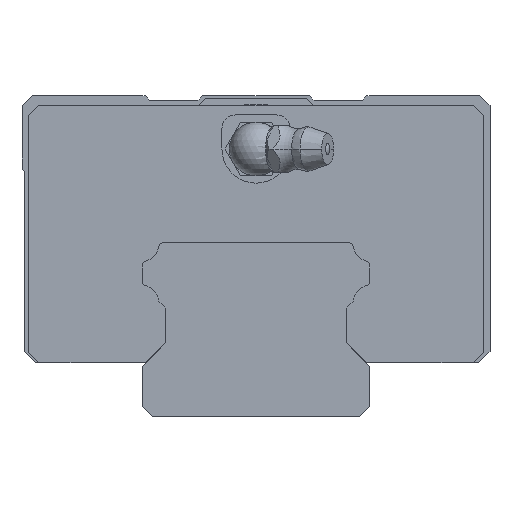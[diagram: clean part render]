
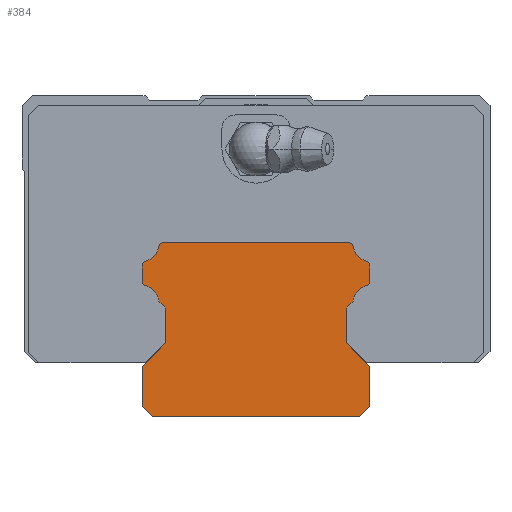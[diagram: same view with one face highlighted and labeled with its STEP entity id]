
A CAD part, front view. The second image highlights one B-rep face of the part: STEP entity #384.
In plain terms, the highlighted planar face has unit normal (0, -1, 0).
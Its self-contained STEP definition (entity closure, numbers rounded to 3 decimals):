
#384=ADVANCED_FACE('',(#855),#856,.T.);
#855=FACE_OUTER_BOUND('',#1419,.T.);
#856=PLANE('',#1420);
#1419=EDGE_LOOP('',(#3168,#3169,#3170,#3171,#3172,#3173,#3174,#3175,#3176,#3177,#3178,#3179,#3180,#3181,#3182,#3183,#3184,#3185,#3186,#3187,#3188,#3189,#3190,#3191));
#1420=AXIS2_PLACEMENT_3D('',#3192,#3193,#3194);
#3168=ORIENTED_EDGE('',*,*,#3862,.T.);
#3169=ORIENTED_EDGE('',*,*,#3909,.T.);
#3170=ORIENTED_EDGE('',*,*,#3847,.T.);
#3171=ORIENTED_EDGE('',*,*,#3901,.T.);
#3172=ORIENTED_EDGE('',*,*,#3910,.T.);
#3173=ORIENTED_EDGE('',*,*,#3911,.T.);
#3174=ORIENTED_EDGE('',*,*,#3851,.T.);
#3175=ORIENTED_EDGE('',*,*,#3866,.T.);
#3176=ORIENTED_EDGE('',*,*,#3856,.T.);
#3177=ORIENTED_EDGE('',*,*,#3912,.T.);
#3178=ORIENTED_EDGE('',*,*,#3913,.T.);
#3179=ORIENTED_EDGE('',*,*,#3914,.T.);
#3180=ORIENTED_EDGE('',*,*,#3915,.T.);
#3181=ORIENTED_EDGE('',*,*,#3903,.T.);
#3182=ORIENTED_EDGE('',*,*,#3841,.T.);
#3183=ORIENTED_EDGE('',*,*,#3916,.T.);
#3184=ORIENTED_EDGE('',*,*,#3891,.T.);
#3185=ORIENTED_EDGE('',*,*,#3898,.T.);
#3186=ORIENTED_EDGE('',*,*,#3917,.T.);
#3187=ORIENTED_EDGE('',*,*,#3868,.T.);
#3188=ORIENTED_EDGE('',*,*,#3918,.T.);
#3189=ORIENTED_EDGE('',*,*,#3919,.T.);
#3190=ORIENTED_EDGE('',*,*,#3837,.T.);
#3191=ORIENTED_EDGE('',*,*,#3920,.T.);
#3192=CARTESIAN_POINT('',(-16.2,-95.0,20.283));
#3193=DIRECTION('',(0.0,-1.0,0.0));
#3194=DIRECTION('',(0.0,0.0,-1.0));
#3837=EDGE_CURVE('',#4765,#4766,#4767,.T.);
#3841=EDGE_CURVE('',#4773,#4774,#4775,.T.);
#3847=EDGE_CURVE('',#4783,#4784,#4785,.T.);
#3851=EDGE_CURVE('',#4791,#4792,#4793,.T.);
#3856=EDGE_CURVE('',#4800,#4801,#4802,.T.);
#3862=EDGE_CURVE('',#4810,#4811,#4812,.T.);
#3866=EDGE_CURVE('',#4792,#4800,#4818,.T.);
#3868=EDGE_CURVE('',#4820,#4821,#4822,.T.);
#3891=EDGE_CURVE('',#4858,#4859,#4860,.T.);
#3898=EDGE_CURVE('',#4859,#4869,#4870,.T.);
#3901=EDGE_CURVE('',#4784,#4873,#4874,.T.);
#3903=EDGE_CURVE('',#4876,#4773,#4877,.T.);
#3909=EDGE_CURVE('',#4811,#4783,#4885,.T.);
#3910=EDGE_CURVE('',#4873,#4886,#4887,.T.);
#3911=EDGE_CURVE('',#4886,#4791,#4888,.T.);
#3912=EDGE_CURVE('',#4801,#4889,#4890,.T.);
#3913=EDGE_CURVE('',#4889,#4891,#4892,.T.);
#3914=EDGE_CURVE('',#4891,#4893,#4894,.T.);
#3915=EDGE_CURVE('',#4893,#4876,#4895,.T.);
#3916=EDGE_CURVE('',#4774,#4858,#4896,.T.);
#3917=EDGE_CURVE('',#4869,#4820,#4897,.T.);
#3918=EDGE_CURVE('',#4821,#4898,#4899,.T.);
#3919=EDGE_CURVE('',#4898,#4765,#4900,.T.);
#3920=EDGE_CURVE('',#4766,#4810,#4901,.T.);
#4765=VERTEX_POINT('',#6207);
#4766=VERTEX_POINT('',#6208);
#4767=CIRCLE('',#6209,2.6);
#4773=VERTEX_POINT('',#6217);
#4774=VERTEX_POINT('',#6218);
#4775=CIRCLE('',#6219,2.6);
#4783=VERTEX_POINT('',#6229);
#4784=VERTEX_POINT('',#6230);
#4785=CIRCLE('',#6231,2.6);
#4791=VERTEX_POINT('',#6239);
#4792=VERTEX_POINT('',#6240);
#4793=LINE('',#6241,#6242);
#4800=VERTEX_POINT('',#6252);
#4801=VERTEX_POINT('',#6253);
#4802=LINE('',#6254,#6255);
#4810=VERTEX_POINT('',#6266);
#4811=VERTEX_POINT('',#6267);
#4812=LINE('',#6268,#6269);
#4818=LINE('',#6278,#6279);
#4820=VERTEX_POINT('',#6282);
#4821=VERTEX_POINT('',#6283);
#4822=CIRCLE('',#6284,0.8);
#4858=VERTEX_POINT('',#6332);
#4859=VERTEX_POINT('',#6333);
#4860=LINE('',#6334,#6335);
#4869=VERTEX_POINT('',#6346);
#4870=CIRCLE('',#6347,0.8);
#4873=VERTEX_POINT('',#6351);
#4874=LINE('',#6352,#6353);
#4876=VERTEX_POINT('',#6356);
#4877=LINE('',#6357,#6358);
#4885=CIRCLE('',#6367,0.8);
#4886=VERTEX_POINT('',#6368);
#4887=LINE('',#6369,#6370);
#4888=LINE('',#6371,#6372);
#4889=VERTEX_POINT('',#6373);
#4890=LINE('',#6374,#6375);
#4891=VERTEX_POINT('',#6376);
#4892=LINE('',#6377,#6378);
#4893=VERTEX_POINT('',#6379);
#4894=LINE('',#6380,#6381);
#4895=LINE('',#6382,#6383);
#4896=CIRCLE('',#6384,0.8);
#4897=CIRCLE('',#6385,2.6);
#4898=VERTEX_POINT('',#6386);
#4899=LINE('',#6387,#6388);
#4900=CIRCLE('',#6389,0.8);
#4901=CIRCLE('',#6390,0.8);
#6207=CARTESIAN_POINT('',(-14.573,-95.0,25.338));
#6208=CARTESIAN_POINT('',(-16.42,-95.0,23.286));
#6209=AXIS2_PLACEMENT_3D('',#7242,#7243,#7244);
#6217=CARTESIAN_POINT('',(14.545,-95.0,17.245));
#6218=CARTESIAN_POINT('',(16.42,-95.0,19.514));
#6219=AXIS2_PLACEMENT_3D('',#7250,#7251,#7252);
#6229=CARTESIAN_POINT('',(-16.42,-95.0,19.514));
#6230=CARTESIAN_POINT('',(-14.545,-95.0,17.245));
#6231=AXIS2_PLACEMENT_3D('',#7264,#7265,#7266);
#6239=CARTESIAN_POINT('',(-17.0,-95.0,7.5));
#6240=CARTESIAN_POINT('',(-17.0,-95.0,1.5));
#6241=CARTESIAN_POINT('',(-17.0,-95.0,7.5));
#6242=VECTOR('',#7272,1000.0);
#6252=CARTESIAN_POINT('',(-15.5,-95.0,0.));
#6253=CARTESIAN_POINT('',(15.5,-95.0,0.0));
#6254=CARTESIAN_POINT('',(-15.5,-95.0,0.0));
#6255=VECTOR('',#7279,1000.0);
#6266=CARTESIAN_POINT('',(-17.0,-95.0,22.517));
#6267=CARTESIAN_POINT('',(-17.0,-95.0,20.283));
#6268=CARTESIAN_POINT('',(-17.0,-95.0,22.517));
#6269=VECTOR('',#7289,1000.0);
#6278=CARTESIAN_POINT('',(-17.0,-95.0,1.5));
#6279=VECTOR('',#7293,1000.0);
#6282=CARTESIAN_POINT('',(14.573,-95.0,25.338));
#6283=CARTESIAN_POINT('',(13.785,-95.0,26.0));
#6284=AXIS2_PLACEMENT_3D('',#7295,#7296,#7297);
#6332=CARTESIAN_POINT('',(17.0,-95.0,20.283));
#6333=CARTESIAN_POINT('',(17.0,-95.0,22.517));
#6334=CARTESIAN_POINT('',(17.0,-95.0,20.283));
#6335=VECTOR('',#7340,1000.0);
#6346=CARTESIAN_POINT('',(16.42,-95.0,23.286));
#6347=AXIS2_PLACEMENT_3D('',#7355,#7356,#7357);
#6351=CARTESIAN_POINT('',(-13.5,-95.0,16.2));
#6352=CARTESIAN_POINT('',(-14.545,-95.0,17.245));
#6353=VECTOR('',#7362,1000.0);
#6356=CARTESIAN_POINT('',(13.5,-95.0,16.2));
#6357=CARTESIAN_POINT('',(13.5,-95.0,16.2));
#6358=VECTOR('',#7364,1000.0);
#6367=AXIS2_PLACEMENT_3D('',#7378,#7379,#7380);
#6368=CARTESIAN_POINT('',(-13.5,-95.0,11.));
#6369=CARTESIAN_POINT('',(-13.5,-95.0,16.2));
#6370=VECTOR('',#7381,1000.0);
#6371=CARTESIAN_POINT('',(-13.5,-95.0,11.));
#6372=VECTOR('',#7382,1000.0);
#6373=CARTESIAN_POINT('',(17.0,-95.0,1.5));
#6374=CARTESIAN_POINT('',(15.5,-95.0,0.0));
#6375=VECTOR('',#7383,1000.0);
#6376=CARTESIAN_POINT('',(17.0,-95.0,7.5));
#6377=CARTESIAN_POINT('',(17.0,-95.0,1.5));
#6378=VECTOR('',#7384,1000.0);
#6379=CARTESIAN_POINT('',(13.5,-95.0,11.));
#6380=CARTESIAN_POINT('',(17.0,-95.0,7.5));
#6381=VECTOR('',#7385,1000.0);
#6382=CARTESIAN_POINT('',(13.5,-95.0,11.));
#6383=VECTOR('',#7386,1000.0);
#6384=AXIS2_PLACEMENT_3D('',#7387,#7388,#7389);
#6385=AXIS2_PLACEMENT_3D('',#7390,#7391,#7392);
#6386=CARTESIAN_POINT('',(-13.785,-95.0,26.0));
#6387=CARTESIAN_POINT('',(13.785,-95.0,26.0));
#6388=VECTOR('',#7393,1000.0);
#6389=AXIS2_PLACEMENT_3D('',#7394,#7395,#7396);
#6390=AXIS2_PLACEMENT_3D('',#7397,#7398,#7399);
#7242=CARTESIAN_POINT('',(-17.134,-95.0,25.786));
#7243=DIRECTION('',(0.0,1.0,0.));
#7244=DIRECTION('',(1.0,0.0,0.0));
#7250=CARTESIAN_POINT('',(17.134,-95.0,17.014));
#7251=DIRECTION('',(0.0,1.0,0.));
#7252=DIRECTION('',(1.0,0.0,0.0));
#7264=CARTESIAN_POINT('',(-17.134,-95.0,17.014));
#7265=DIRECTION('',(0.0,1.0,0.));
#7266=DIRECTION('',(1.0,0.0,0.0));
#7272=DIRECTION('',(0.0,0.0,-1.0));
#7279=DIRECTION('',(1.0,0.0,0.0));
#7289=DIRECTION('',(0.0,0.0,-1.0));
#7293=DIRECTION('',(0.707,0.0,-0.707));
#7295=CARTESIAN_POINT('',(13.785,-95.0,25.2));
#7296=DIRECTION('',(0.0,-1.0,0.0));
#7297=DIRECTION('',(1.0,0.0,0.0));
#7340=DIRECTION('',(0.0,0.0,1.0));
#7355=CARTESIAN_POINT('',(16.2,-95.0,22.517));
#7356=DIRECTION('',(0.0,-1.0,0.0));
#7357=DIRECTION('',(1.0,0.0,0.0));
#7362=DIRECTION('',(0.707,0.0,-0.707));
#7364=DIRECTION('',(0.707,0.0,0.707));
#7378=CARTESIAN_POINT('',(-16.2,-95.0,20.283));
#7379=DIRECTION('',(0.0,-1.0,0.0));
#7380=DIRECTION('',(1.0,0.0,0.0));
#7381=DIRECTION('',(0.0,0.0,-1.0));
#7382=DIRECTION('',(-0.707,0.0,-0.707));
#7383=DIRECTION('',(0.707,0.0,0.707));
#7384=DIRECTION('',(0.0,0.0,1.0));
#7385=DIRECTION('',(-0.707,0.0,0.707));
#7386=DIRECTION('',(0.0,0.0,1.0));
#7387=CARTESIAN_POINT('',(16.2,-95.0,20.283));
#7388=DIRECTION('',(0.0,-1.0,0.0));
#7389=DIRECTION('',(1.0,0.0,0.0));
#7390=CARTESIAN_POINT('',(17.134,-95.0,25.786));
#7391=DIRECTION('',(0.0,1.0,0.));
#7392=DIRECTION('',(1.0,0.0,0.0));
#7393=DIRECTION('',(-1.0,0.0,0.0));
#7394=CARTESIAN_POINT('',(-13.785,-95.0,25.2));
#7395=DIRECTION('',(0.0,-1.0,0.0));
#7396=DIRECTION('',(1.0,0.0,0.0));
#7397=CARTESIAN_POINT('',(-16.2,-95.0,22.517));
#7398=DIRECTION('',(0.0,-1.0,0.0));
#7399=DIRECTION('',(1.0,0.0,0.0));
